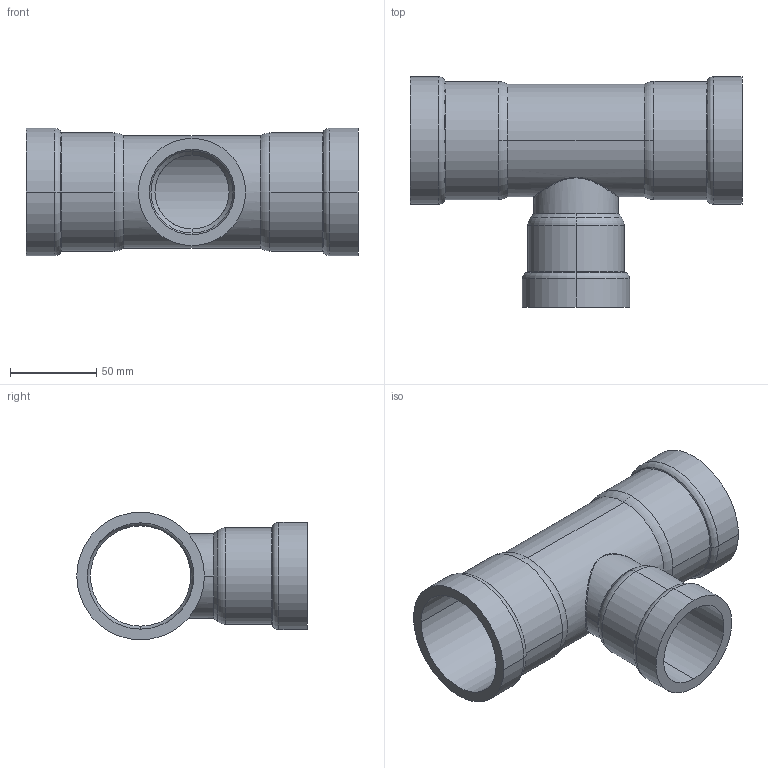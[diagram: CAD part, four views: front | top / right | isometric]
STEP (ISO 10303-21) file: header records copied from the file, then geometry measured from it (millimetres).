
FILE_DESCRIPTION(('Creo Elements/Direct Modeling STEP Export'),'2;1');
FILE_NAME('C9415_2_1-1-2_2.stp','2020-07-15T15:56:54',(''),(''),'PTC Creo Elements/Direct Modeling STEP processor for AP214 (Solid Model)','PTC Creo Elements/Direct Modeling 19.0C 15-Aug-2015 (C) Parametric Technology GmbH','');
FILE_SCHEMA(('AUTOMOTIVE_DESIGN { 1 0 10303 214 1 1 1 1 }'));
Length unit declared in the file: millimetre
Products named in the file (2): C9415_2_1-1-2_2
Assembly tree (1 placements, depth 2):
  C9415_2_1-1-2_2
    C9415_2_1-1-2_2
Bounding box: 192.02 x 133.3 x 73.8 mm (x, y, z)
Volume: 196498.3 mm3; surface area: 101404.7 mm2
Topology: 1 solids, 1 shells, 61 faces, 144 edges, 86 vertices
Faces by surface type: cylinder 26, torus 18, cone 10, bspline 4, plane 3
Entity records: 6534 total; most frequent: CARTESIAN_POINT 5244, ORIENTED_EDGE 288, DIRECTION 248, EDGE_CURVE 144, AXIS2_PLACEMENT_3D 106, VERTEX_POINT 86, EDGE_LOOP 66, FACE_OUTER_BOUND 61
